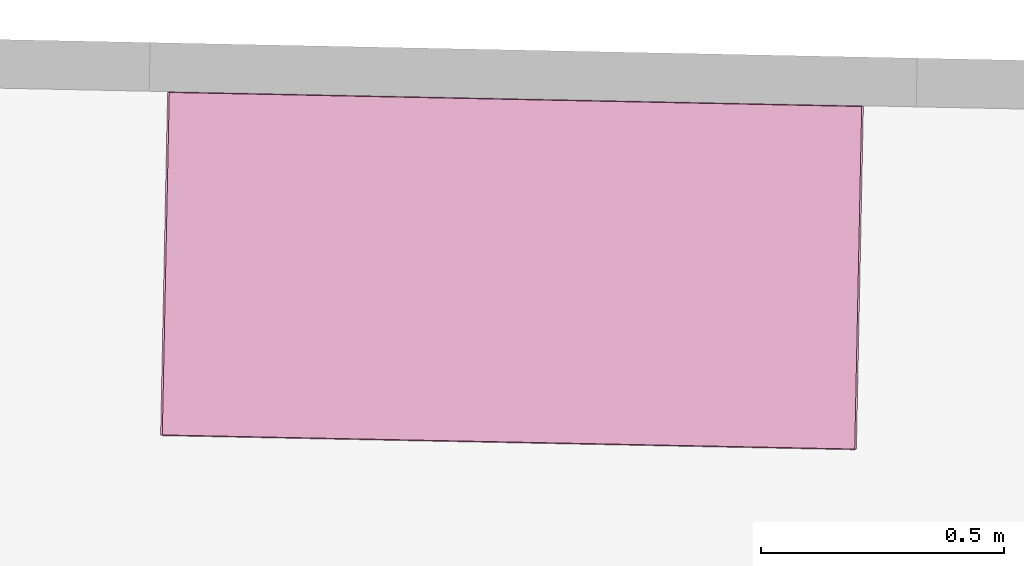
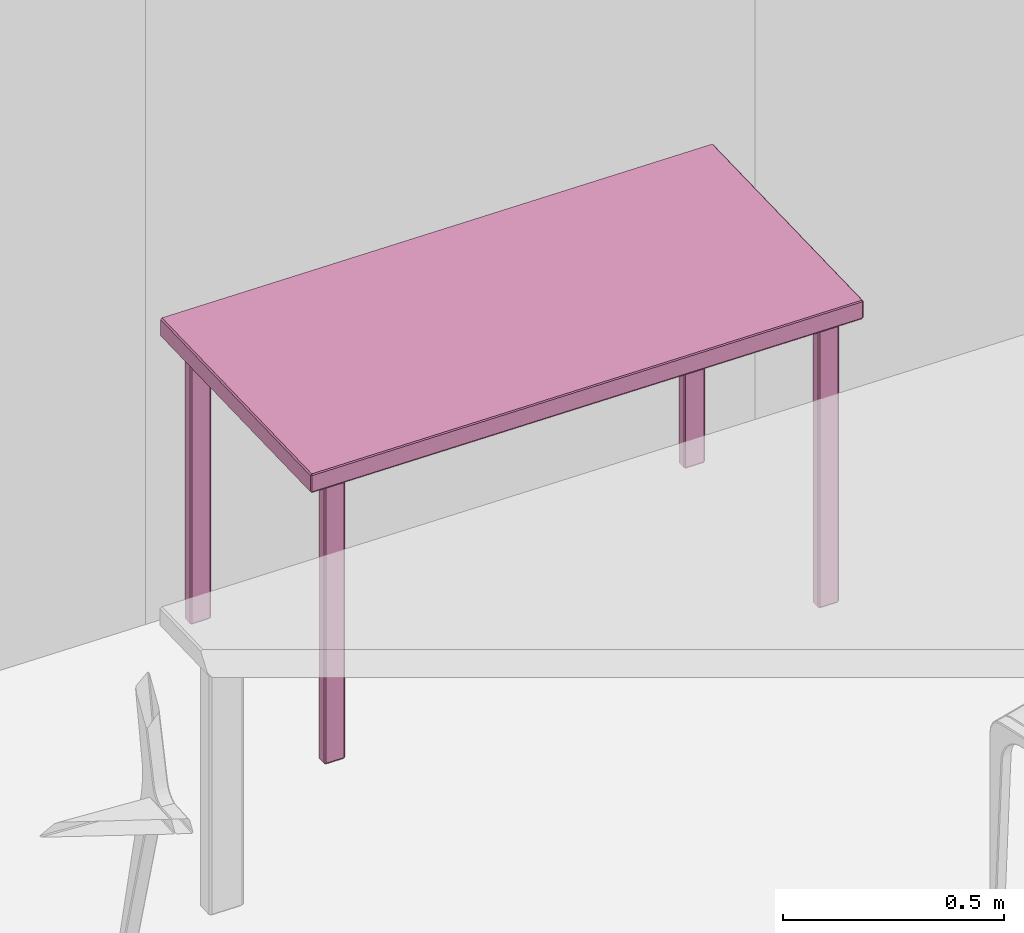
# One storey, part 7 of 8: 1 furnishing.
"""IFC2X3 building model written with IfcOpenShell, lengths in metres."""

from ifc_helpers import new_model, si_unit, frame, origin_with_axes, place, context, project, spatial, faceted_brep, type_object, element, save


model = new_model("IFC2X3")

# Units and contexts
model_context = context("Model", 3, precision=1e-05, world=origin_with_axes())
ifc_project = project(units=[si_unit("AREAUNIT", "SQUARE_METRE"), si_unit("LENGTHUNIT", "METRE")], contexts=[model_context])

# Site, building, storey, space
site_placement = place(None, origin_with_axes())
site = spatial("IfcSite", under=ifc_project, at=site_placement, Name="Site", CompositionType="ELEMENT")
building_placement = place(site_placement, origin_with_axes())
building = spatial("IfcBuilding", under=site, at=building_placement, Name="Building", CompositionType="ELEMENT")
storey_placement = place(building_placement, frame((0.0, 0.0, 2.8867046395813), z_axis=(0.0, 0.0, 1.0), x_axis=(1.0, 0.0, 0.0)))
storey = spatial("IfcBuildingStorey", under=building, at=storey_placement, Name="Story 1", CompositionType="ELEMENT", Elevation=2.8867045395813)
space_placement = place(storey_placement, frame((-5.79603528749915, -0.942128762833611, 0.0), z_axis=(0.0, 0.0, 1.0), x_axis=(1.0, 0.0, 0.0)))
space = spatial("IfcSpace", under=storey, at=space_placement, Name="006", CompositionType="ELEMENT", InteriorOrExteriorSpace="INTERNAL")

# Furnishing
furniture_type = type_object("IfcFurnitureType", Name="5adda58c-0bc7-4c17-a3e1-cfee767a8121")
furnishing_placement = place(space_placement, frame((4.77945780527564, 2.93425320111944, 0.417999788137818), z_axis=(0.0, 0.0, 0.999999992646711), x_axis=(-0.020369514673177, -0.999792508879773, 0.0)))
element("IfcFurnishingElement", 1, at=furnishing_placement, inside=space, type_object=furniture_type, Name="Table", ObjectType="Table", context=model_context, shape_type="Brep", body=[
    faceted_brep([(0.3522, 0.7157, 0.3695), (-0.3522, 0.7157, 0.3695), (0.3522, 0.7157, 0.4143), (-0.3522, 0.7157, 0.4143), (0.3522, 0.7157, 0.4143), (-0.3522, 0.7157, 0.3695), (0.3019, -0.6626, 0.3789), (0.3019, -0.6157, 0.3789), (0.3019, -0.6626, -0.4143), (0.3019, -0.6157, -0.4143), (0.3019, -0.6626, -0.4143), (0.3019, -0.6157, 0.3789), (0.3269, -0.6662, 0.3789), (0.3036, -0.6662, 0.3789), (0.3269, -0.6662, -0.4143), (0.3036, -0.6662, -0.4143), (0.3269, -0.6662, -0.4143), (0.3036, -0.6662, 0.3789), (0.3286, -0.6157, 0.3789), (0.3286, -0.6626, 0.3789), (0.3286, -0.6157, -0.4143), (0.3286, -0.6626, -0.4143), (0.3286, -0.6157, -0.4143), (0.3286, -0.6626, 0.3789), (0.3036, -0.6121, 0.3789), (0.3269, -0.6121, 0.3789), (0.3036, -0.6121, -0.4143), (0.3269, -0.6121, -0.4143), (0.3036, -0.6121, -0.4143), (0.3269, -0.6121, 0.3789), (0.3019, 0.6626, 0.3789), (0.3019, 0.6626, -0.4143), (0.3019, 0.6157, 0.3789), (0.3019, 0.6157, -0.4143), (0.3019, 0.6157, 0.3789), (0.3019, 0.6626, -0.4143), (0.3269, 0.6662, 0.3789), (0.3269, 0.6662, -0.4143), (0.3036, 0.6662, 0.3789), (0.3036, 0.6662, -0.4143), (0.3036, 0.6662, 0.3789), (0.3269, 0.6662, -0.4143), (0.3286, 0.6157, 0.3789), (0.3286, 0.6157, -0.4143), (0.3286, 0.6626, 0.3789), (0.3286, 0.6626, -0.4143), (0.3286, 0.6626, 0.3789), (0.3286, 0.6157, -0.4143), (0.3036, 0.6121, 0.3789), (0.3036, 0.6121, -0.4143), (0.3269, 0.6121, 0.3789), (0.3269, 0.6121, -0.4143), (0.3269, 0.6121, 0.3789), (0.3036, 0.6121, -0.4143), (0.3539, 0.7121, 0.3695), (0.3539, 0.7121, 0.4143), (0.3539, -0.7121, 0.3695), (0.3539, -0.7121, 0.4143), (0.3539, -0.7121, 0.3695), (0.3539, 0.7121, 0.4143), (-0.3539, 0.7121, 0.4143), (-0.3539, 0.7121, 0.3695), (-0.3539, -0.7121, 0.4143), (-0.3539, -0.7121, 0.3695), (-0.3539, -0.7121, 0.4143), (-0.3539, 0.7121, 0.3695), (-0.3019, -0.6626, 0.3789), (-0.3019, -0.6626, -0.4143), (-0.3019, -0.6157, 0.3789), (-0.3019, -0.6157, -0.4143), (-0.3019, -0.6157, 0.3789), (-0.3019, -0.6626, -0.4143), (-0.3269, -0.6662, 0.3789), (-0.3269, -0.6662, -0.4143), (-0.3036, -0.6662, 0.3789), (-0.3036, -0.6662, -0.4143), (-0.3036, -0.6662, 0.3789), (-0.3269, -0.6662, -0.4143), (-0.3286, -0.6157, 0.3789), (-0.3286, -0.6157, -0.4143), (-0.3286, -0.6626, 0.3789), (-0.3286, -0.6626, -0.4143), (-0.3286, -0.6626, 0.3789), (-0.3286, -0.6157, -0.4143), (-0.3036, -0.6121, 0.3789), (-0.3036, -0.6121, -0.4143), (-0.3269, -0.6121, 0.3789), (-0.3269, -0.6121, -0.4143), (-0.3269, -0.6121, 0.3789), (-0.3036, -0.6121, -0.4143), (-0.3019, 0.6626, 0.3789), (-0.3019, 0.6157, 0.3789), (-0.3019, 0.6626, -0.4143), (-0.3019, 0.6157, -0.4143), (-0.3019, 0.6626, -0.4143), (-0.3019, 0.6157, 0.3789), (-0.3269, 0.6662, 0.3789), (-0.3036, 0.6662, 0.3789), (-0.3269, 0.6662, -0.4143), (-0.3036, 0.6662, -0.4143), (-0.3269, 0.6662, -0.4143), (-0.3036, 0.6662, 0.3789), (-0.3286, 0.6157, 0.3789), (-0.3286, 0.6626, 0.3789), (-0.3286, 0.6157, -0.4143), (-0.3286, 0.6626, -0.4143), (-0.3286, 0.6157, -0.4143), (-0.3286, 0.6626, 0.3789), (-0.3036, 0.6121, 0.3789), (-0.3269, 0.6121, 0.3789), (-0.3036, 0.6121, -0.4143), (-0.3269, 0.6121, -0.4143), (-0.3036, 0.6121, -0.4143), (-0.3269, 0.6121, 0.3789), (-0.3522, 0.7121, 0.418), (-0.3522, -0.7121, 0.418), (0.3522, 0.7121, 0.418), (0.3522, -0.7121, 0.418), (0.3522, 0.7121, 0.418), (-0.3522, -0.7121, 0.418), (0.3522, -0.7157, 0.3695), (0.3522, -0.7157, 0.4143), (-0.3522, -0.7157, 0.3695), (-0.3522, -0.7157, 0.4143), (-0.3522, -0.7157, 0.3695), (0.3522, -0.7157, 0.4143), (0.3522, -0.7121, 0.3658), (-0.3522, -0.7121, 0.3658), (0.3522, 0.7121, 0.3658), (-0.3522, 0.7121, 0.3658), (0.3522, 0.7121, 0.3658), (-0.3522, -0.7121, 0.3658), (0.3269, -0.6626, 0.3826), (0.3269, -0.6157, 0.3826), (0.3036, -0.6626, 0.3826), (0.3036, -0.6157, 0.3826), (0.3036, -0.6626, 0.3826), (0.3269, -0.6157, 0.3826), (0.3269, -0.6157, -0.418), (0.3269, -0.6626, -0.418), (0.3036, -0.6157, -0.418), (0.3036, -0.6626, -0.418), (0.3036, -0.6157, -0.418), (0.3269, -0.6626, -0.418), (0.3269, 0.6626, -0.418), (0.3269, 0.6157, -0.418), (0.3036, 0.6626, -0.418), (0.3036, 0.6157, -0.418), (0.3036, 0.6626, -0.418), (0.3269, 0.6157, -0.418), (0.3269, 0.6157, 0.3826), (0.3269, 0.6626, 0.3826), (0.3036, 0.6157, 0.3826), (0.3036, 0.6626, 0.3826), (0.3036, 0.6157, 0.3826), (0.3269, 0.6626, 0.3826), (-0.3269, -0.6626, -0.418), (-0.3269, -0.6157, -0.418), (-0.3036, -0.6626, -0.418), (-0.3036, -0.6157, -0.418), (-0.3036, -0.6626, -0.418), (-0.3269, -0.6157, -0.418), (-0.3269, -0.6157, 0.3826), (-0.3269, -0.6626, 0.3826), (-0.3036, -0.6157, 0.3826), (-0.3036, -0.6626, 0.3826), (-0.3036, -0.6157, 0.3826), (-0.3269, -0.6626, 0.3826), (-0.3269, 0.6626, 0.3826), (-0.3269, 0.6157, 0.3826), (-0.3036, 0.6626, 0.3826), (-0.3036, 0.6157, 0.3826), (-0.3036, 0.6626, 0.3826), (-0.3269, 0.6157, 0.3826), (-0.3269, 0.6157, -0.418), (-0.3269, 0.6626, -0.418), (-0.3036, 0.6157, -0.418), (-0.3036, 0.6626, -0.418), (-0.3036, 0.6157, -0.418), (-0.3269, 0.6626, -0.418), (-0.3522, 0.7121, 0.418), (-0.3522, 0.7157, 0.4143), (-0.3539, 0.7121, 0.4143), (0.3036, -0.6157, -0.418), (0.3019, -0.6157, -0.4143), (0.3036, -0.6121, -0.4143), (0.3036, -0.6626, -0.418), (0.3036, -0.6662, -0.4143), (0.3019, -0.6626, -0.4143), (0.3269, -0.6626, -0.418), (0.3286, -0.6626, -0.4143), (0.3269, -0.6662, -0.4143), (0.3269, -0.6157, -0.418), (0.3269, -0.6121, -0.4143), (0.3286, -0.6157, -0.4143), (0.3036, -0.6157, 0.3826), (0.3036, -0.6121, 0.3789), (0.3019, -0.6157, 0.3789), (0.3036, 0.6121, -0.4143), (0.3019, 0.6157, -0.4143), (0.3036, 0.6157, -0.418), (0.3036, 0.6626, 0.3826), (0.3036, 0.6662, 0.3789), (0.3019, 0.6626, 0.3789), (0.3269, 0.6626, 0.3826), (0.3286, 0.6626, 0.3789), (0.3269, 0.6662, 0.3789), (0.3269, 0.6157, 0.3826), (0.3269, 0.6121, 0.3789), (0.3286, 0.6157, 0.3789), (0.3522, -0.7157, 0.4143), (0.3539, -0.7121, 0.4143), (0.3522, -0.7121, 0.418), (0.3522, 0.7121, 0.418), (0.3539, 0.7121, 0.4143), (0.3522, 0.7157, 0.4143), (-0.3522, -0.7157, 0.3695), (-0.3539, -0.7121, 0.3695), (-0.3522, -0.7121, 0.3658), (-0.3522, 0.7121, 0.3658), (-0.3539, 0.7121, 0.3695), (-0.3522, 0.7157, 0.3695), (-0.3036, -0.6121, -0.4143), (-0.3019, -0.6157, -0.4143), (-0.3036, -0.6157, -0.418), (-0.3036, -0.6626, 0.3826), (-0.3036, -0.6662, 0.3789), (-0.3019, -0.6626, 0.3789), (-0.3269, -0.6626, 0.3826), (-0.3286, -0.6626, 0.3789), (-0.3269, -0.6662, 0.3789), (-0.3269, -0.6157, 0.3826), (-0.3269, -0.6121, 0.3789), (-0.3286, -0.6157, 0.3789), (-0.3036, 0.6157, -0.418), (-0.3019, 0.6157, -0.4143), (-0.3036, 0.6121, -0.4143), (-0.3036, 0.6626, -0.418), (-0.3036, 0.6662, -0.4143), (-0.3019, 0.6626, -0.4143), (-0.3269, 0.6626, -0.418), (-0.3286, 0.6626, -0.4143), (-0.3269, 0.6662, -0.4143), (-0.3269, 0.6157, -0.418), (-0.3269, 0.6121, -0.4143), (-0.3286, 0.6157, -0.4143), (-0.3036, 0.6157, 0.3826), (-0.3036, 0.6121, 0.3789), (-0.3019, 0.6157, 0.3789), (-0.3522, -0.7157, 0.4143), (-0.3522, -0.7121, 0.418), (-0.3539, -0.7121, 0.4143), (0.3522, -0.7157, 0.3695), (0.3522, -0.7121, 0.3658), (0.3539, -0.7121, 0.3695), (0.3539, 0.7121, 0.3695), (0.3522, 0.7121, 0.3658), (0.3522, 0.7157, 0.3695), (0.3269, -0.6121, 0.3789), (0.3269, -0.6157, 0.3826), (0.3286, -0.6157, 0.3789), (0.3286, -0.6626, 0.3789), (0.3269, -0.6626, 0.3826), (0.3269, -0.6662, 0.3789), (0.3036, -0.6662, 0.3789), (0.3036, -0.6626, 0.3826), (0.3019, -0.6626, 0.3789), (0.3269, 0.6121, -0.4143), (0.3269, 0.6157, -0.418), (0.3286, 0.6157, -0.4143), (0.3286, 0.6626, -0.4143), (0.3269, 0.6626, -0.418), (0.3269, 0.6662, -0.4143), (0.3036, 0.6662, -0.4143), (0.3036, 0.6626, -0.418), (0.3019, 0.6626, -0.4143), (0.3036, 0.6121, 0.3789), (0.3036, 0.6157, 0.3826), (0.3019, 0.6157, 0.3789), (-0.3269, -0.6121, -0.4143), (-0.3269, -0.6157, -0.418), (-0.3286, -0.6157, -0.4143), (-0.3286, -0.6626, -0.4143), (-0.3269, -0.6626, -0.418), (-0.3269, -0.6662, -0.4143), (-0.3036, -0.6662, -0.4143), (-0.3036, -0.6626, -0.418), (-0.3019, -0.6626, -0.4143), (-0.3036, -0.6121, 0.3789), (-0.3036, -0.6157, 0.3826), (-0.3019, -0.6157, 0.3789), (-0.3269, 0.6121, 0.3789), (-0.3269, 0.6157, 0.3826), (-0.3286, 0.6157, 0.3789), (-0.3286, 0.6626, 0.3789), (-0.3269, 0.6626, 0.3826), (-0.3269, 0.6662, 0.3789), (-0.3036, 0.6662, 0.3789), (-0.3036, 0.6626, 0.3826), (-0.3019, 0.6626, 0.3789), (-0.3522, 0.7157, 0.4143), (-0.3522, 0.7157, 0.3695), (-0.3539, 0.7121, 0.4143), (-0.3539, 0.7121, 0.3695), (-0.3539, 0.7121, 0.4143), (-0.3522, 0.7157, 0.3695), (-0.3522, 0.7157, 0.3695), (0.3522, 0.7157, 0.3695), (-0.3522, 0.7121, 0.3658), (0.3522, 0.7121, 0.3658), (-0.3522, 0.7121, 0.3658), (0.3522, 0.7157, 0.3695), (0.3522, 0.7157, 0.3695), (0.3522, 0.7157, 0.4143), (0.3539, 0.7121, 0.3695), (0.3539, 0.7121, 0.4143), (0.3539, 0.7121, 0.3695), (0.3522, 0.7157, 0.4143), (0.3522, 0.7157, 0.4143), (-0.3522, 0.7157, 0.4143), (0.3522, 0.7121, 0.418), (-0.3522, 0.7121, 0.418), (0.3522, 0.7121, 0.418), (-0.3522, 0.7157, 0.4143), (0.3019, -0.6157, -0.4143), (0.3019, -0.6157, 0.3789), (0.3036, -0.6121, -0.4143), (0.3036, -0.6121, 0.3789), (0.3036, -0.6121, -0.4143), (0.3019, -0.6157, 0.3789), (0.3019, -0.6157, 0.3789), (0.3019, -0.6626, 0.3789), (0.3036, -0.6157, 0.3826), (0.3036, -0.6626, 0.3826), (0.3036, -0.6157, 0.3826), (0.3019, -0.6626, 0.3789), (0.3019, -0.6626, 0.3789), (0.3019, -0.6626, -0.4143), (0.3036, -0.6662, 0.3789), (0.3036, -0.6662, -0.4143), (0.3036, -0.6662, 0.3789), (0.3019, -0.6626, -0.4143), (0.3019, -0.6626, -0.4143), (0.3019, -0.6157, -0.4143), (0.3036, -0.6626, -0.418), (0.3036, -0.6157, -0.418), (0.3036, -0.6626, -0.418), (0.3019, -0.6157, -0.4143), (0.3036, -0.6662, 0.3789), (0.3269, -0.6662, 0.3789), (0.3036, -0.6626, 0.3826), (0.3269, -0.6626, 0.3826), (0.3036, -0.6626, 0.3826), (0.3269, -0.6662, 0.3789), (0.3269, -0.6662, 0.3789), (0.3269, -0.6662, -0.4143), (0.3286, -0.6626, 0.3789), (0.3286, -0.6626, -0.4143), (0.3286, -0.6626, 0.3789), (0.3269, -0.6662, -0.4143), (0.3269, -0.6662, -0.4143), (0.3036, -0.6662, -0.4143), (0.3269, -0.6626, -0.418), (0.3036, -0.6626, -0.418), (0.3269, -0.6626, -0.418), (0.3036, -0.6662, -0.4143), (0.3286, -0.6626, 0.3789), (0.3286, -0.6157, 0.3789), (0.3269, -0.6626, 0.3826), (0.3269, -0.6157, 0.3826), (0.3269, -0.6626, 0.3826), (0.3286, -0.6157, 0.3789), (0.3286, -0.6157, 0.3789), (0.3286, -0.6157, -0.4143), (0.3269, -0.6121, 0.3789), (0.3269, -0.6121, -0.4143), (0.3269, -0.6121, 0.3789), (0.3286, -0.6157, -0.4143), (0.3286, -0.6157, -0.4143), (0.3286, -0.6626, -0.4143), (0.3269, -0.6157, -0.418), (0.3269, -0.6626, -0.418), (0.3269, -0.6157, -0.418), (0.3286, -0.6626, -0.4143), (0.3269, -0.6121, 0.3789), (0.3036, -0.6121, 0.3789), (0.3269, -0.6157, 0.3826), (0.3036, -0.6157, 0.3826), (0.3269, -0.6157, 0.3826), (0.3036, -0.6121, 0.3789), (0.3036, -0.6121, -0.4143), (0.3269, -0.6121, -0.4143), (0.3036, -0.6157, -0.418), (0.3269, -0.6157, -0.418), (0.3036, -0.6157, -0.418), (0.3269, -0.6121, -0.4143), (0.3019, 0.6157, -0.4143), (0.3019, 0.6626, -0.4143), (0.3036, 0.6157, -0.418), (0.3036, 0.6626, -0.418), (0.3036, 0.6157, -0.418), (0.3019, 0.6626, -0.4143), (0.3019, 0.6626, -0.4143), (0.3019, 0.6626, 0.3789), (0.3036, 0.6662, -0.4143), (0.3036, 0.6662, 0.3789), (0.3036, 0.6662, -0.4143), (0.3019, 0.6626, 0.3789), (0.3019, 0.6626, 0.3789), (0.3019, 0.6157, 0.3789), (0.3036, 0.6626, 0.3826), (0.3036, 0.6157, 0.3826), (0.3036, 0.6626, 0.3826), (0.3019, 0.6157, 0.3789), (0.3019, 0.6157, 0.3789), (0.3019, 0.6157, -0.4143), (0.3036, 0.6121, 0.3789), (0.3036, 0.6121, -0.4143), (0.3036, 0.6121, 0.3789), (0.3019, 0.6157, -0.4143), (0.3036, 0.6662, -0.4143), (0.3269, 0.6662, -0.4143), (0.3036, 0.6626, -0.418), (0.3269, 0.6626, -0.418), (0.3036, 0.6626, -0.418), (0.3269, 0.6662, -0.4143), (0.3269, 0.6662, -0.4143), (0.3269, 0.6662, 0.3789), (0.3286, 0.6626, -0.4143), (0.3286, 0.6626, 0.3789), (0.3286, 0.6626, -0.4143), (0.3269, 0.6662, 0.3789), (0.3269, 0.6662, 0.3789), (0.3036, 0.6662, 0.3789), (0.3269, 0.6626, 0.3826), (0.3036, 0.6626, 0.3826), (0.3269, 0.6626, 0.3826), (0.3036, 0.6662, 0.3789), (0.3286, 0.6626, -0.4143), (0.3286, 0.6157, -0.4143), (0.3269, 0.6626, -0.418), (0.3269, 0.6157, -0.418), (0.3269, 0.6626, -0.418), (0.3286, 0.6157, -0.4143), (0.3286, 0.6157, -0.4143), (0.3286, 0.6157, 0.3789), (0.3269, 0.6121, -0.4143), (0.3269, 0.6121, 0.3789), (0.3269, 0.6121, -0.4143), (0.3286, 0.6157, 0.3789), (0.3286, 0.6157, 0.3789), (0.3286, 0.6626, 0.3789), (0.3269, 0.6157, 0.3826), (0.3269, 0.6626, 0.3826), (0.3269, 0.6157, 0.3826), (0.3286, 0.6626, 0.3789), (0.3269, 0.6121, -0.4143), (0.3036, 0.6121, -0.4143), (0.3269, 0.6157, -0.418), (0.3036, 0.6157, -0.418), (0.3269, 0.6157, -0.418), (0.3036, 0.6121, -0.4143), (0.3036, 0.6121, 0.3789), (0.3269, 0.6121, 0.3789), (0.3036, 0.6157, 0.3826), (0.3269, 0.6157, 0.3826), (0.3036, 0.6157, 0.3826), (0.3269, 0.6121, 0.3789), (0.3539, -0.7121, 0.4143), (0.3539, 0.7121, 0.4143), (0.3522, -0.7121, 0.418), (0.3522, 0.7121, 0.418), (0.3522, -0.7121, 0.418), (0.3539, 0.7121, 0.4143), (0.3539, 0.7121, 0.3695), (0.3539, -0.7121, 0.3695), (0.3522, 0.7121, 0.3658), (0.3522, -0.7121, 0.3658), (0.3522, 0.7121, 0.3658), (0.3539, -0.7121, 0.3695), (0.3539, -0.7121, 0.3695), (0.3539, -0.7121, 0.4143), (0.3522, -0.7157, 0.3695), (0.3522, -0.7157, 0.4143), (0.3522, -0.7157, 0.3695), (0.3539, -0.7121, 0.4143), (-0.3539, -0.7121, 0.3695), (-0.3539, 0.7121, 0.3695), (-0.3522, -0.7121, 0.3658), (-0.3522, 0.7121, 0.3658), (-0.3522, -0.7121, 0.3658), (-0.3539, 0.7121, 0.3695), (-0.3539, 0.7121, 0.4143), (-0.3539, -0.7121, 0.4143), (-0.3522, 0.7121, 0.418), (-0.3522, -0.7121, 0.418), (-0.3522, 0.7121, 0.418), (-0.3539, -0.7121, 0.4143), (-0.3539, -0.7121, 0.4143), (-0.3539, -0.7121, 0.3695), (-0.3522, -0.7157, 0.4143), (-0.3522, -0.7157, 0.3695), (-0.3522, -0.7157, 0.4143), (-0.3539, -0.7121, 0.3695), (-0.3019, -0.6157, -0.4143), (-0.3019, -0.6626, -0.4143), (-0.3036, -0.6157, -0.418), (-0.3036, -0.6626, -0.418), (-0.3036, -0.6157, -0.418), (-0.3019, -0.6626, -0.4143), (-0.3019, -0.6626, -0.4143), (-0.3019, -0.6626, 0.3789), (-0.3036, -0.6662, -0.4143), (-0.3036, -0.6662, 0.3789), (-0.3036, -0.6662, -0.4143), (-0.3019, -0.6626, 0.3789), (-0.3019, -0.6626, 0.3789), (-0.3019, -0.6157, 0.3789), (-0.3036, -0.6626, 0.3826), (-0.3036, -0.6157, 0.3826), (-0.3036, -0.6626, 0.3826), (-0.3019, -0.6157, 0.3789), (-0.3019, -0.6157, 0.3789), (-0.3019, -0.6157, -0.4143), (-0.3036, -0.6121, 0.3789), (-0.3036, -0.6121, -0.4143), (-0.3036, -0.6121, 0.3789), (-0.3019, -0.6157, -0.4143), (-0.3036, -0.6662, -0.4143), (-0.3269, -0.6662, -0.4143), (-0.3036, -0.6626, -0.418), (-0.3269, -0.6626, -0.418), (-0.3036, -0.6626, -0.418), (-0.3269, -0.6662, -0.4143), (-0.3269, -0.6662, -0.4143), (-0.3269, -0.6662, 0.3789), (-0.3286, -0.6626, -0.4143), (-0.3286, -0.6626, 0.3789), (-0.3286, -0.6626, -0.4143), (-0.3269, -0.6662, 0.3789), (-0.3269, -0.6662, 0.3789), (-0.3036, -0.6662, 0.3789), (-0.3269, -0.6626, 0.3826), (-0.3036, -0.6626, 0.3826), (-0.3269, -0.6626, 0.3826), (-0.3036, -0.6662, 0.3789), (-0.3286, -0.6626, -0.4143), (-0.3286, -0.6157, -0.4143), (-0.3269, -0.6626, -0.418), (-0.3269, -0.6157, -0.418), (-0.3269, -0.6626, -0.418), (-0.3286, -0.6157, -0.4143), (-0.3286, -0.6157, -0.4143), (-0.3286, -0.6157, 0.3789), (-0.3269, -0.6121, -0.4143), (-0.3269, -0.6121, 0.3789), (-0.3269, -0.6121, -0.4143), (-0.3286, -0.6157, 0.3789), (-0.3286, -0.6157, 0.3789), (-0.3286, -0.6626, 0.3789), (-0.3269, -0.6157, 0.3826), (-0.3269, -0.6626, 0.3826), (-0.3269, -0.6157, 0.3826), (-0.3286, -0.6626, 0.3789), (-0.3269, -0.6121, -0.4143), (-0.3036, -0.6121, -0.4143), (-0.3269, -0.6157, -0.418), (-0.3036, -0.6157, -0.418), (-0.3269, -0.6157, -0.418), (-0.3036, -0.6121, -0.4143), (-0.3036, -0.6121, 0.3789), (-0.3269, -0.6121, 0.3789), (-0.3036, -0.6157, 0.3826), (-0.3269, -0.6157, 0.3826), (-0.3036, -0.6157, 0.3826), (-0.3269, -0.6121, 0.3789), (-0.3019, 0.6157, -0.4143), (-0.3019, 0.6157, 0.3789), (-0.3036, 0.6121, -0.4143), (-0.3036, 0.6121, 0.3789), (-0.3036, 0.6121, -0.4143), (-0.3019, 0.6157, 0.3789), (-0.3019, 0.6157, 0.3789), (-0.3019, 0.6626, 0.3789), (-0.3036, 0.6157, 0.3826), (-0.3036, 0.6626, 0.3826), (-0.3036, 0.6157, 0.3826), (-0.3019, 0.6626, 0.3789), (-0.3019, 0.6626, 0.3789), (-0.3019, 0.6626, -0.4143), (-0.3036, 0.6662, 0.3789), (-0.3036, 0.6662, -0.4143), (-0.3036, 0.6662, 0.3789), (-0.3019, 0.6626, -0.4143), (-0.3019, 0.6626, -0.4143), (-0.3019, 0.6157, -0.4143), (-0.3036, 0.6626, -0.418), (-0.3036, 0.6157, -0.418), (-0.3036, 0.6626, -0.418), (-0.3019, 0.6157, -0.4143), (-0.3036, 0.6662, 0.3789), (-0.3269, 0.6662, 0.3789), (-0.3036, 0.6626, 0.3826), (-0.3269, 0.6626, 0.3826), (-0.3036, 0.6626, 0.3826), (-0.3269, 0.6662, 0.3789), (-0.3269, 0.6662, 0.3789), (-0.3269, 0.6662, -0.4143), (-0.3286, 0.6626, 0.3789), (-0.3286, 0.6626, -0.4143), (-0.3286, 0.6626, 0.3789), (-0.3269, 0.6662, -0.4143), (-0.3269, 0.6662, -0.4143), (-0.3036, 0.6662, -0.4143), (-0.3269, 0.6626, -0.418), (-0.3036, 0.6626, -0.418), (-0.3269, 0.6626, -0.418), (-0.3036, 0.6662, -0.4143), (-0.3286, 0.6626, 0.3789), (-0.3286, 0.6157, 0.3789), (-0.3269, 0.6626, 0.3826), (-0.3269, 0.6157, 0.3826), (-0.3269, 0.6626, 0.3826), (-0.3286, 0.6157, 0.3789), (-0.3286, 0.6157, 0.3789), (-0.3286, 0.6157, -0.4143), (-0.3269, 0.6121, 0.3789), (-0.3269, 0.6121, -0.4143), (-0.3269, 0.6121, 0.3789), (-0.3286, 0.6157, -0.4143), (-0.3286, 0.6157, -0.4143), (-0.3286, 0.6626, -0.4143), (-0.3269, 0.6157, -0.418), (-0.3269, 0.6626, -0.418), (-0.3269, 0.6157, -0.418), (-0.3286, 0.6626, -0.4143), (-0.3269, 0.6121, 0.3789), (-0.3036, 0.6121, 0.3789), (-0.3269, 0.6157, 0.3826), (-0.3036, 0.6157, 0.3826), (-0.3269, 0.6157, 0.3826), (-0.3036, 0.6121, 0.3789), (-0.3036, 0.6121, -0.4143), (-0.3269, 0.6121, -0.4143), (-0.3036, 0.6157, -0.418), (-0.3269, 0.6157, -0.418), (-0.3036, 0.6157, -0.418), (-0.3269, 0.6121, -0.4143), (0.3522, -0.7121, 0.418), (-0.3522, -0.7121, 0.418), (0.3522, -0.7157, 0.4143), (-0.3522, -0.7157, 0.4143), (0.3522, -0.7157, 0.4143), (-0.3522, -0.7121, 0.418), (0.3522, -0.7157, 0.3695), (-0.3522, -0.7157, 0.3695), (0.3522, -0.7121, 0.3658), (-0.3522, -0.7121, 0.3658), (0.3522, -0.7121, 0.3658), (-0.3522, -0.7157, 0.3695)], [[[0, 1, 2]], [[3, 4, 5]], [[6, 7, 8]], [[9, 10, 11]], [[12, 13, 14]], [[15, 16, 17]], [[18, 19, 20]], [[21, 22, 23]], [[24, 25, 26]], [[27, 28, 29]], [[30, 31, 32]], [[33, 34, 35]], [[36, 37, 38]], [[39, 40, 41]], [[42, 43, 44]], [[45, 46, 47]], [[48, 49, 50]], [[51, 52, 53]], [[54, 55, 56]], [[57, 58, 59]], [[60, 61, 62]], [[63, 64, 65]], [[66, 67, 68]], [[69, 70, 71]], [[72, 73, 74]], [[75, 76, 77]], [[78, 79, 80]], [[81, 82, 83]], [[84, 85, 86]], [[87, 88, 89]], [[90, 91, 92]], [[93, 94, 95]], [[96, 97, 98]], [[99, 100, 101]], [[102, 103, 104]], [[105, 106, 107]], [[108, 109, 110]], [[111, 112, 113]], [[114, 115, 116]], [[117, 118, 119]], [[120, 121, 122]], [[123, 124, 125]], [[126, 127, 128]], [[129, 130, 131]], [[132, 133, 134]], [[135, 136, 137]], [[138, 139, 140]], [[141, 142, 143]], [[144, 145, 146]], [[147, 148, 149]], [[150, 151, 152]], [[153, 154, 155]], [[156, 157, 158]], [[159, 160, 161]], [[162, 163, 164]], [[165, 166, 167]], [[168, 169, 170]], [[171, 172, 173]], [[174, 175, 176]], [[177, 178, 179]], [[180, 181, 182]], [[183, 184, 185]], [[186, 187, 188]], [[189, 190, 191]], [[192, 193, 194]], [[195, 196, 197]], [[198, 199, 200]], [[201, 202, 203]], [[204, 205, 206]], [[207, 208, 209]], [[210, 211, 212]], [[213, 214, 215]], [[216, 217, 218]], [[219, 220, 221]], [[222, 223, 224]], [[225, 226, 227]], [[228, 229, 230]], [[231, 232, 233]], [[234, 235, 236]], [[237, 238, 239]], [[240, 241, 242]], [[243, 244, 245]], [[246, 247, 248]], [[249, 250, 251]], [[252, 253, 254]], [[255, 256, 257]], [[258, 259, 260]], [[261, 262, 263]], [[264, 265, 266]], [[267, 268, 269]], [[270, 271, 272]], [[273, 274, 275]], [[276, 277, 278]], [[279, 280, 281]], [[282, 283, 284]], [[285, 286, 287]], [[288, 289, 290]], [[291, 292, 293]], [[294, 295, 296]], [[297, 298, 299]], [[300, 301, 302]], [[303, 304, 305]], [[306, 307, 308]], [[309, 310, 311]], [[312, 313, 314]], [[315, 316, 317]], [[318, 319, 320]], [[321, 322, 323]], [[324, 325, 326]], [[327, 328, 329]], [[330, 331, 332]], [[333, 334, 335]], [[336, 337, 338]], [[339, 340, 341]], [[342, 343, 344]], [[345, 346, 347]], [[348, 349, 350]], [[351, 352, 353]], [[354, 355, 356]], [[357, 358, 359]], [[360, 361, 362]], [[363, 364, 365]], [[366, 367, 368]], [[369, 370, 371]], [[372, 373, 374]], [[375, 376, 377]], [[378, 379, 380]], [[381, 382, 383]], [[384, 385, 386]], [[387, 388, 389]], [[390, 391, 392]], [[393, 394, 395]], [[396, 397, 398]], [[399, 400, 401]], [[402, 403, 404]], [[405, 406, 407]], [[408, 409, 410]], [[411, 412, 413]], [[414, 415, 416]], [[417, 418, 419]], [[420, 421, 422]], [[423, 424, 425]], [[426, 427, 428]], [[429, 430, 431]], [[432, 433, 434]], [[435, 436, 437]], [[438, 439, 440]], [[441, 442, 443]], [[444, 445, 446]], [[447, 448, 449]], [[450, 451, 452]], [[453, 454, 455]], [[456, 457, 458]], [[459, 460, 461]], [[462, 463, 464]], [[465, 466, 467]], [[468, 469, 470]], [[471, 472, 473]], [[474, 475, 476]], [[477, 478, 479]], [[480, 481, 482]], [[483, 484, 485]], [[486, 487, 488]], [[489, 490, 491]], [[492, 493, 494]], [[495, 496, 497]], [[498, 499, 500]], [[501, 502, 503]], [[504, 505, 506]], [[507, 508, 509]], [[510, 511, 512]], [[513, 514, 515]], [[516, 517, 518]], [[519, 520, 521]], [[522, 523, 524]], [[525, 526, 527]], [[528, 529, 530]], [[531, 532, 533]], [[534, 535, 536]], [[537, 538, 539]], [[540, 541, 542]], [[543, 544, 545]], [[546, 547, 548]], [[549, 550, 551]], [[552, 553, 554]], [[555, 556, 557]], [[558, 559, 560]], [[561, 562, 563]], [[564, 565, 566]], [[567, 568, 569]], [[570, 571, 572]], [[573, 574, 575]], [[576, 577, 578]], [[579, 580, 581]], [[582, 583, 584]], [[585, 586, 587]], [[588, 589, 590]], [[591, 592, 593]], [[594, 595, 596]], [[597, 598, 599]], [[600, 601, 602]], [[603, 604, 605]], [[606, 607, 608]], [[609, 610, 611]], [[612, 613, 614]], [[615, 616, 617]], [[618, 619, 620]], [[621, 622, 623]], [[624, 625, 626]], [[627, 628, 629]], [[630, 631, 632]], [[633, 634, 635]], [[636, 637, 638]], [[639, 640, 641]], [[642, 643, 644]], [[645, 646, 647]], [[648, 649, 650]], [[651, 652, 653]], [[654, 655, 656]], [[657, 658, 659]]]),
])

save(model, "model.ifc")
